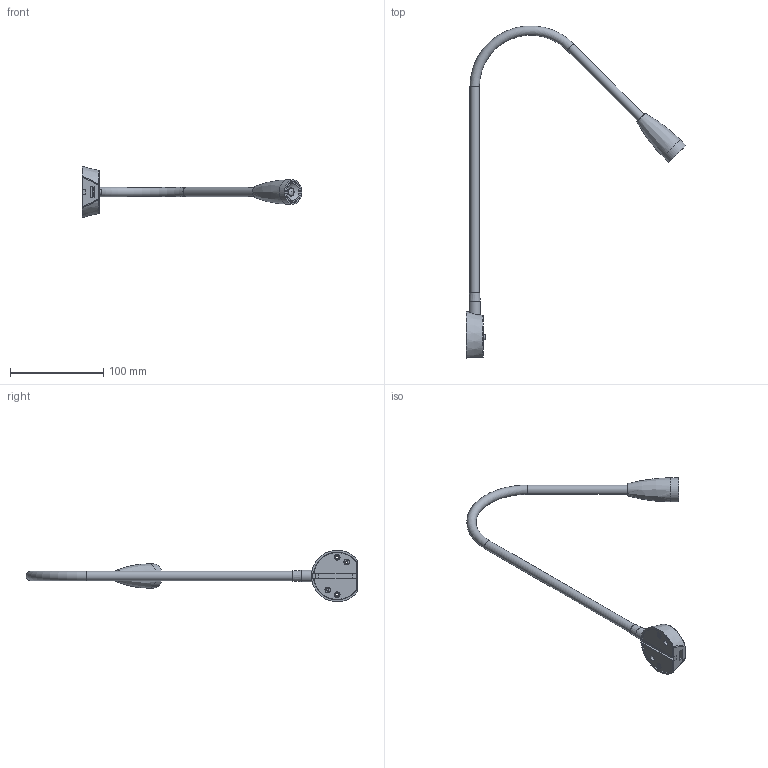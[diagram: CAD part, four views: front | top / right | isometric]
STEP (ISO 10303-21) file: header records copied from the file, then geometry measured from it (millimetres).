
FILE_DESCRIPTION(/* description */ (''),/* implementation_level */ '2;1');
FILE_NAME(/* name */ '5995341_5995343_Reading Light with USB-Charger.stp',/* time_stamp */ '2019-06-11T12:01:45+02:00',/* author */ (''),/* organization */ (''),/* preprocessor_version */ 'ST-DEVELOPER v16.7',/* originating_system */ 'SIEMENS PLM Software NX 12.0',/* authorisation */ '');
FILE_SCHEMA (('AUTOMOTIVE_DESIGN { 1 0 10303 214 3 1 1 1 }'));
Length unit declared in the file: millimetre
Products named in the file (1): p.sc21B4B528x413
Bounding box: 235.22 x 355.6 x 55.19 mm (x, y, z)
Volume: 94583.8 mm3; surface area: 30297.6 mm2
Topology: 1 solids, 1 shells, 141 faces, 354 edges, 236 vertices
Faces by surface type: plane 87, cone 31, cylinder 13, bspline 5, torus 3, sphere 2
Full cylindrical faces by diameter (mm): 5.7 x1, 10 x2, 12 x1, 13.065 x1, 19.8 x1, 19.9 x1, 21.5 x1, 21.7 x1, 26 x1
Entity records: 4293 total; most frequent: CARTESIAN_POINT 1160, DIRECTION 621, ORIENTED_EDGE 606, EDGE_CURVE 303, AXIS2_PLACEMENT_3D 253, VERTEX_POINT 217, EDGE_LOOP 200, ADVANCED_FACE 141
